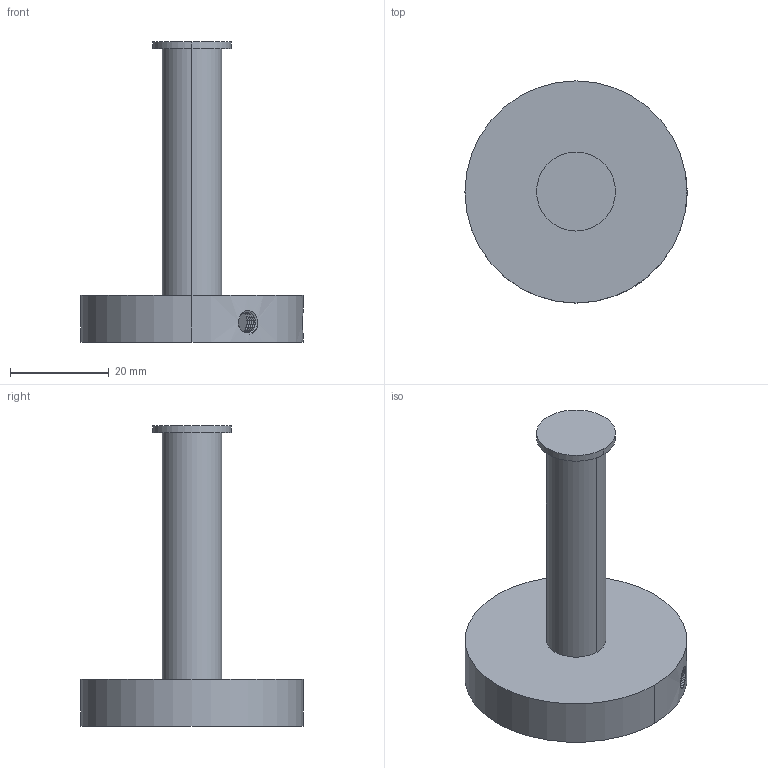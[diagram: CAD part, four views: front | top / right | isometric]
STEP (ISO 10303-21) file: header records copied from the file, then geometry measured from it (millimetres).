
FILE_DESCRIPTION((''),'2;1');
FILE_NAME('3D_SW0001','2022-09-22T16:57:31',('ivanv'),(''),'CREO PARAMETRIC BY PTC INC, 2021184','CREO PARAMETRIC BY PTC INC, 2021184','');
FILE_SCHEMA(('CONFIG_CONTROL_DESIGN'));
Length unit declared in the file: millimetre
Products named in the file (1): 3D_SW0001
Bounding box: 45 x 45 x 60.9 mm (x, y, z)
Volume: 12899.8 mm3; surface area: 7967.1 mm2
Topology: 1 solids, 1 shells, 105 faces, 283 edges, 184 vertices
Faces by surface type: cylinder 64, bspline 29, plane 8, cone 4
Entity records: 7986 total; most frequent: CARTESIAN_POINT 5714, ORIENTED_EDGE 562, DIRECTION 291, EDGE_CURVE 281, VERTEX_POINT 184, B_SPLINE_CURVE_WITH_KNOTS 170, EDGE_LOOP 115, FACE_OUTER_BOUND 105
